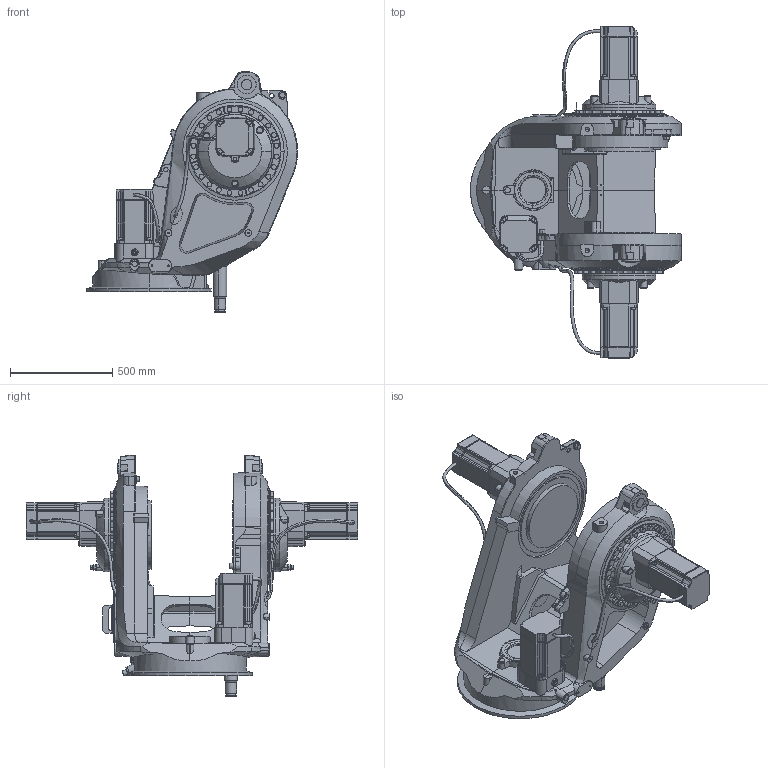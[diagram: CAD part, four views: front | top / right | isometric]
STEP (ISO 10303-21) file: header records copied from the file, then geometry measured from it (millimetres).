
FILE_DESCRIPTION (( 'STEP AP203' ), '1' );
FILE_NAME ('IRB8700-MH6_800-350_IRC5_rev00_LINK1_CAD.STEP', '2015-06-04T08:31:27', ( 'ABB' ), ( 'ABB' ), 'SwSTEP 2.0', 'SolidWorks 2014', '' );
FILE_SCHEMA (( 'CONFIG_CONTROL_DESIGN' ));
Length unit declared in the file: millimetre
Products named in the file (1): IRB8700-MH6_800-350_IRC5_rev00_LINK1_CAD
Bounding box: 1030.96 x 1621 x 1179.79 mm (x, y, z)
Volume: 227394374 mm3; surface area: 5685502.8 mm2
Topology: 4 solids, 5 shells, 1472 faces, 3662 edges, 2320 vertices
Faces by surface type: plane 719, cylinder 426, cone 180, bspline 135, torus 12
Entity records: 60946 total; most frequent: CARTESIAN_POINT 27380, ORIENTED_EDGE 7292, DIRECTION 6468, EDGE_CURVE 3646, VERTEX_POINT 2320, AXIS2_PLACEMENT_3D 2289, VECTOR 1890, LINE 1890
